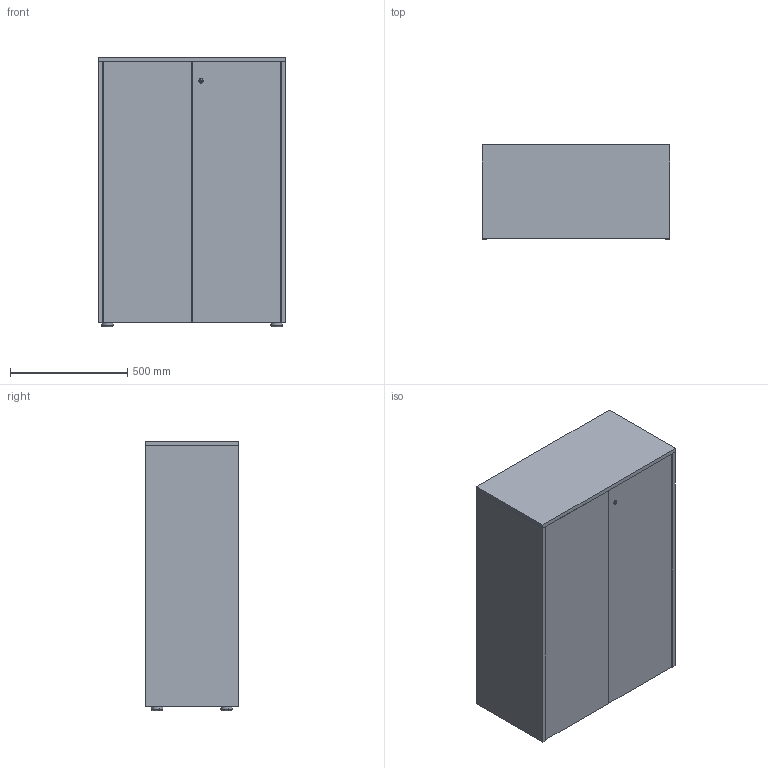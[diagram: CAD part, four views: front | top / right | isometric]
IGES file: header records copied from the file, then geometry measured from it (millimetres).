
Start section: SolidWorks IGES file using analytic representation for surfaces
Global section: file name: C:\Documents and Settings\mbiesiadecki\Moje dokumenty\MEBLE\SYSTEMY BIUROWE\6 VANCOUVER\VANCOUVER - Piktogramy\Vri-pikt-NT\Vr 28bdr-t01\Vr-38bdr-t01.IGS; native system: SolidWorks 2011; preprocessor: SolidWorks 2011; author: mbiesiadecki; date: 110923.160304; units: millimetre
Bounding box: 801 x 400.2 x 1151 mm (x, y, z)
Volume: 55669288.6 mm3; surface area: 6537101.8 mm2
Topology: 4 solids, 4 shells, 98 faces, 230 edges, 146 vertices
Faces by surface type: plane 64, revolution 34
